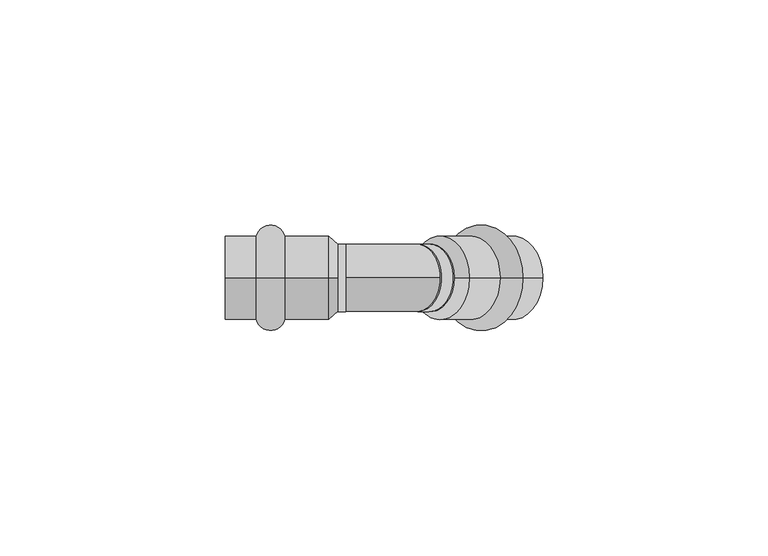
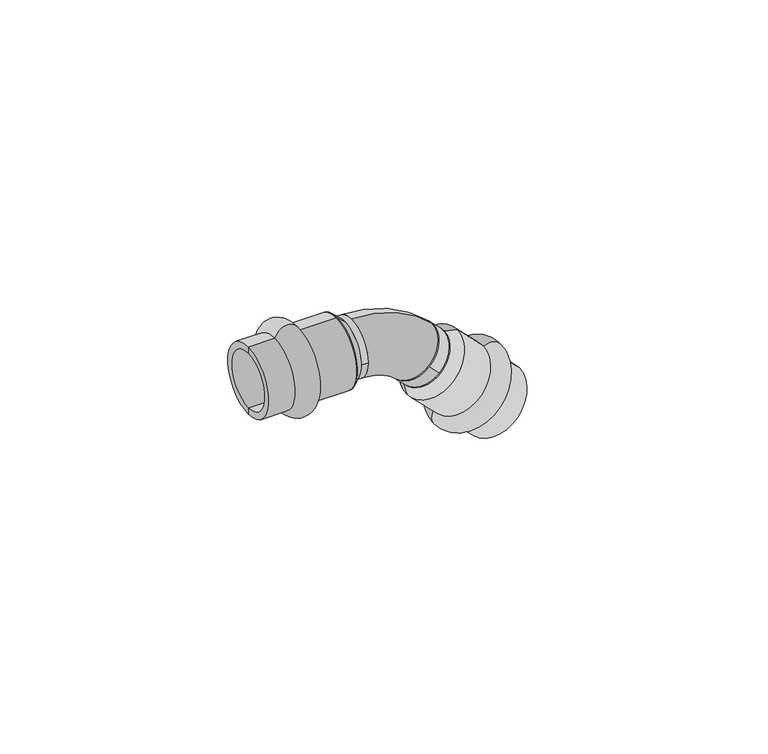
"""IFC4 building model written with IfcOpenShell, lengths in millimetres: pipe fitting geometry, VALTEC_VTi.959.I_Угольник 45° (раструб–раструб) нержавеющая сталь : Тип 1."""

from ifc_helpers import new_model, si_unit, point, frame, frame_2d, origin, origin_2d, place, context, project, spatial, polyline, circle_curve, ellipse_curve, trimmed, segment, composite_curve, outline, extrude, source, transform, mapped, element, save
from ifc_brep_helpers import plane_surface, cylinder_surface, revolved_surface, advanced_brep


def pipe_fitting_28faa182(model_context):
    return source(origin(), model_context, "Body", "SolidModel", [
        advanced_brep(
        [(-3.75, 0.0, 9.25), (-3.75, 0.0, -9.25), (-1.75, 0.0, 7.5), (-1.75, 0.0, -7.5)],
        [
            (0, 1, circle_curve(frame((-3.75, 0.0, 0.0), z_axis=(-1.0, 0.0, 0.0), x_axis=(0.0, 0.0, 1.0)), 9.25)),
            (1, 0, circle_curve(frame((-3.75, 0.0, 0.0), z_axis=(-1.0, 0.0, 0.0), x_axis=(0.0, 0.0, -1.0)), 9.25)),
            (2, 3, circle_curve(frame((-1.75, 0.0, 0.0), z_axis=(1.0, 0.0, 0.0), x_axis=(0.0, 0.0, -1.0)), 7.5)),
            (3, 2, circle_curve(frame((-1.75, 0.0, 0.0), z_axis=(1.0, 0.0, 0.0), x_axis=(0.0, 0.0, 1.0)), 7.5)),
            (3, 1),
            (0, 2),
        ],
        [
            plane_surface(frame((-3.75, 0.0, 0.0), z_axis=(-1.0, 0.0, 0.0), x_axis=(0.0, 1.0, 0.0))),
            plane_surface(frame((-1.75, 0.0, 0.0), z_axis=(1.0, 0.0, 0.0), x_axis=(0.0, 1.0, 0.0))),
            revolved_surface(polyline([(-1.7500000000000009, 0.0, -7.5000000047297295), (-3.750000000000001, 0.0, -9.25)]), (6.8214286, 0.0, 0.0), (-1.0, 0.0, 0.0)),
            revolved_surface(polyline([(-1.7500000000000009, 0.0, 7.5000000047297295), (-3.750000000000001, 0.0, 9.25)]), (6.8214286, 0.0, 0.0), (-1.0, 0.0, 0.0)),
        ],
        [
            (0, [[1, 2]]),
            (1, [[3, 4]]),
            (2, [[-4, 5, -1, 6]]),
            (3, [[-3, -6, -2, -5]]),
        ],
    ),
        advanced_brep(
        [(14.3507666, 0.0, -18.1124369), (27.432242, 0.0, -5.0309614), (13.4668831, 0.0, -14.7536797), (24.0734848, 0.0, -4.1470779)],
        [
            (0, 1, circle_curve(frame((20.8915043, 0.0, -11.5716991), z_axis=(0.7071067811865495, 0.0, -0.7071067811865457), x_axis=(-0.7071067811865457, 0.0, -0.7071067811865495)), 9.25)),
            (1, 0, circle_curve(frame((20.8915043, 0.0, -11.5716991), z_axis=(0.7071067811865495, 0.0, -0.7071067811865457), x_axis=(0.7071067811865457, 0.0, 0.7071067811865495)), 9.25)),
            (2, 3, circle_curve(frame((18.770184, 0.0, -9.4503788), z_axis=(-0.7071067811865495, 0.0, 0.7071067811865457), x_axis=(0.7071067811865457, 0.0, 0.7071067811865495)), 7.5)),
            (3, 2, circle_curve(frame((18.770184, 0.0, -9.4503788), z_axis=(-0.7071067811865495, 0.0, 0.7071067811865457), x_axis=(-0.7071067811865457, 0.0, -0.7071067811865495)), 7.5)),
            (3, 1),
            (0, 2),
        ],
        [
            plane_surface(frame((20.8915043, 0.0, -11.5716991), z_axis=(0.7071067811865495, 0.0, -0.7071067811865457), x_axis=(0.0, 1.0, 0.0))),
            plane_surface(frame((18.770184, 0.0, -9.4503788), z_axis=(-0.7071067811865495, 0.0, 0.7071067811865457), x_axis=(0.0, 1.0, 0.0))),
            revolved_surface(polyline([(24.073484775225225, 0.0, -4.147077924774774), (27.43224207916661, 0.0, -5.030961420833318)]), (9.678811, 0.0, -0.3590059), (0.7071067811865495, 0.0, -0.7071067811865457)),
            revolved_surface(polyline([(13.466883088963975, 0.0, -14.753679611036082), (14.3507666, 0.0, -18.1124369)]), (9.678811, 0.0, -0.3590059), (0.7071067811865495, 0.0, -0.7071067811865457)),
        ],
        [
            (0, [[1, 2]]),
            (1, [[3, 4]]),
            (2, [[-4, 5, -1, 6]]),
            (3, [[-3, -6, -2, -5]]),
        ],
    ),
        advanced_brep(
        [(-19.8622777, 0.0, -9.25), (-19.8622777, 0.0, 9.25), (-13.5377223, 0.0, 9.25), (-13.5377223, 0.0, -9.25), (-26.75, 0.0, -9.25), (-26.75, 0.0, 9.25), (-26.75, 0.0, -7.5), (-26.75, 0.0, 7.5), (-3.75, 0.0, -7.5), (-3.75, 0.0, 7.5), (-3.75, 0.0, -9.25), (-3.75, 0.0, 9.25)],
        [
            (0, 1, circle_curve(frame((-19.8622777, 0.0, 0.0), z_axis=(1.0, 0.0, 0.0), x_axis=(0.0, 0.0, 1.0)), 9.25)),
            (1, 2, circle_curve(frame((-16.7, 0.0, 8.5), z_axis=(0.0, 1.0, 0.0), x_axis=(1.0, 0.0, 0.0)), 3.25)),
            (2, 3, circle_curve(frame((-13.5377223, 0.0, 0.0), z_axis=(-1.0, 0.0, 0.0), x_axis=(0.0, 0.0, 1.0)), 9.25)),
            (3, 0, circle_curve(frame((-16.7, 0.0, -8.5), z_axis=(0.0, 1.0, 0.0), x_axis=(1.0, 0.0, 0.0)), 3.25)),
            (1, 0, circle_curve(frame((-19.8622777, 0.0, 0.0), z_axis=(1.0, 0.0, 0.0), x_axis=(0.0, 0.0, 1.0)), 9.25)),
            (3, 2, circle_curve(frame((-13.5377223, 0.0, 0.0), z_axis=(-1.0, 0.0, 0.0), x_axis=(0.0, 0.0, 1.0)), 9.25)),
            (4, 5, circle_curve(frame((-26.75, 0.0, 0.0), z_axis=(1.0, 0.0, 0.0), x_axis=(0.0, 0.0, 1.0)), 9.25)),
            (5, 1),
            (0, 4),
            (5, 4, circle_curve(frame((-26.75, 0.0, 0.0), z_axis=(1.0, 0.0, 0.0), x_axis=(0.0, 0.0, 1.0)), 9.25)),
            (6, 7, circle_curve(frame((-26.75, 0.0, 0.0), z_axis=(1.0, 0.0, 0.0), x_axis=(0.0, 0.0, 1.0)), 7.5)),
            (7, 5),
            (4, 6),
            (7, 6, circle_curve(frame((-26.75, 0.0, 0.0), z_axis=(1.0, 0.0, 0.0), x_axis=(0.0, 0.0, 1.0)), 7.5)),
            (8, 9, circle_curve(frame((-3.75, 0.0, 0.0), z_axis=(1.0, 0.0, 0.0), x_axis=(0.0, 0.0, 1.0)), 7.5)),
            (9, 7),
            (6, 8),
            (9, 8, circle_curve(frame((-3.75, 0.0, 0.0), z_axis=(1.0, 0.0, 0.0), x_axis=(0.0, 0.0, 1.0)), 7.5)),
            (10, 11, circle_curve(frame((-3.75, 0.0, 0.0), z_axis=(1.0, 0.0, 0.0), x_axis=(0.0, 0.0, 1.0)), 9.25)),
            (11, 9),
            (8, 10),
            (11, 10, circle_curve(frame((-3.75, 0.0, 0.0), z_axis=(1.0, 0.0, 0.0), x_axis=(0.0, 0.0, 1.0)), 9.25)),
            (2, 11),
            (10, 3),
        ],
        [
            revolved_surface(trimmed(ellipse_curve(frame((-16.7, 0.0, 8.5), z_axis=(0.0, -1.0, 0.0), x_axis=(1.0, 0.0, 0.0)), 3.25, 3.25), [point((-13.5377223, 0.0, 9.25))], [point((-19.8622777, 0.0, 9.25))], True, "CARTESIAN"), (-30.2864426, 0.0, 0.0), (-1.0, 0.0, 0.0)),
            cylinder_surface(frame((-30.2864426, 0.0, 0.0), z_axis=(-1.0, 0.0, 0.0), x_axis=(0.0, 0.0, 1.0)), 9.25),
            plane_surface(frame((-26.75, 0.0, 0.0), z_axis=(-1.0, 0.0, 0.0), x_axis=(0.0, 0.0, 1.0))),
            revolved_surface(polyline([(-26.75, 0.0, 7.5), (-3.75, 0.0, 7.5)]), (-30.2864426, 0.0, 0.0), (-1.0, 0.0, 0.0)),
            plane_surface(frame((-3.75, 0.0, 0.0), z_axis=(1.0, 0.0, 0.0), x_axis=(0.0, 0.0, 1.0))),
        ],
        [
            (0, [[1, 2, 3, 4]]),
            (0, [[5, -4, 6, -2]]),
            (1, [[7, 8, -1, 9]]),
            (1, [[10, -9, -5, -8]]),
            (2, [[11, 12, -7, 13]]),
            (2, [[14, -13, -10, -12]]),
            (3, [[15, 16, -11, 17]]),
            (3, [[18, -17, -14, -16]]),
            (4, [[19, 20, -15, 21]]),
            (4, [[22, -21, -18, -20]]),
            (1, [[-3, 23, -19, 24]]),
            (1, [[-6, -24, -22, -23]]),
        ],
    ),
        advanced_brep(
        [(38.8253428, 0.0, -16.4240622), (25.7438674, 0.0, -29.5055377), (21.2717314, 0.0, -25.0334017), (34.3532069, 0.0, -11.9519263), (43.695698, 0.0, -21.2944174), (30.6142225, 0.0, -34.3758928), (42.4582611, 0.0, -22.5318542), (31.8516594, 0.0, -33.138456), (26.1948052, 0.0, -6.2683983), (15.5882034, 0.0, -16.875), (27.432242, 0.0, -5.0309614), (14.3507666, 0.0, -18.1124369)],
        [
            (0, 1, circle_curve(frame((32.2846051, 0.0, -22.9647999), z_axis=(-0.7071067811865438, 0.0, 0.7071067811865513), x_axis=(-0.7071067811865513, 0.0, -0.7071067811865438)), 9.25)),
            (1, 2, circle_curve(frame((24.0381295, 0.0, -26.7391396), z_axis=(0.0, 1.0, 0.0), x_axis=(-0.7071067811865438, 0.0, 0.7071067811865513)), 3.25)),
            (2, 3, circle_curve(frame((27.8124691, 0.0, -18.492664), z_axis=(0.7071067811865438, 0.0, -0.7071067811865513), x_axis=(-0.7071067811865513, 0.0, -0.7071067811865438)), 9.25)),
            (3, 0, circle_curve(frame((36.0589448, 0.0, -14.7183243), z_axis=(0.0, 1.0, 0.0), x_axis=(-0.7071067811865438, 0.0, 0.7071067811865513)), 3.25)),
            (1, 0, circle_curve(frame((32.2846051, 0.0, -22.9647999), z_axis=(-0.7071067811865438, 0.0, 0.7071067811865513), x_axis=(-0.7071067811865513, 0.0, -0.7071067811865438)), 9.25)),
            (3, 2, circle_curve(frame((27.8124691, 0.0, -18.492664), z_axis=(0.7071067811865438, 0.0, -0.7071067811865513), x_axis=(-0.7071067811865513, 0.0, -0.7071067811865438)), 9.25)),
            (4, 5, circle_curve(frame((37.1549603, 0.0, -27.8351551), z_axis=(-0.7071067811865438, 0.0, 0.7071067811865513), x_axis=(-0.7071067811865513, 0.0, -0.7071067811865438)), 9.25)),
            (5, 1),
            (0, 4),
            (5, 4, circle_curve(frame((37.1549603, 0.0, -27.8351551), z_axis=(-0.7071067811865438, 0.0, 0.7071067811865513), x_axis=(-0.7071067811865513, 0.0, -0.7071067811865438)), 9.25)),
            (6, 7, circle_curve(frame((37.1549603, 0.0, -27.8351551), z_axis=(-0.7071067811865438, 0.0, 0.7071067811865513), x_axis=(-0.7071067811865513, 0.0, -0.7071067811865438)), 7.5)),
            (7, 5),
            (4, 6),
            (7, 6, circle_curve(frame((37.1549603, 0.0, -27.8351551), z_axis=(-0.7071067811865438, 0.0, 0.7071067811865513), x_axis=(-0.7071067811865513, 0.0, -0.7071067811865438)), 7.5)),
            (8, 9, circle_curve(frame((20.8915043, 0.0, -11.5716991), z_axis=(-0.7071067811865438, 0.0, 0.7071067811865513), x_axis=(-0.7071067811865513, 0.0, -0.7071067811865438)), 7.5)),
            (9, 7),
            (6, 8),
            (9, 8, circle_curve(frame((20.8915043, 0.0, -11.5716991), z_axis=(-0.7071067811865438, 0.0, 0.7071067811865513), x_axis=(-0.7071067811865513, 0.0, -0.7071067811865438)), 7.5)),
            (10, 11, circle_curve(frame((20.8915043, 0.0, -11.5716991), z_axis=(-0.7071067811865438, 0.0, 0.7071067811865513), x_axis=(-0.7071067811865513, 0.0, -0.7071067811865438)), 9.25)),
            (11, 9),
            (8, 10),
            (11, 10, circle_curve(frame((20.8915043, 0.0, -11.5716991), z_axis=(-0.7071067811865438, 0.0, 0.7071067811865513), x_axis=(-0.7071067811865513, 0.0, -0.7071067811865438)), 9.25)),
            (2, 11),
            (10, 3),
        ],
        [
            revolved_surface(trimmed(ellipse_curve(frame((24.0381295, 0.0, -26.7391396), z_axis=(0.0, -1.0, 0.0), x_axis=(-0.7071067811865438, 0.0, 0.7071067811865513)), 3.25, 3.25), [point((21.2717314, 0.0, -25.0334017))], [point((25.7438674, 0.0, -29.5055377))], True, "CARTESIAN"), (39.6556028, 0.0, -30.3357977), (0.7071067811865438, 0.0, -0.7071067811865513)),
            cylinder_surface(frame((39.6556028, 0.0, -30.3357977), z_axis=(0.7071067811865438, 0.0, -0.7071067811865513), x_axis=(-0.7071067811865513, 0.0, -0.7071067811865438)), 9.25),
            plane_surface(frame((37.1549603, 0.0, -27.8351551), z_axis=(0.7071067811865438, 0.0, -0.7071067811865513), x_axis=(-0.7071067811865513, 0.0, -0.7071067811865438))),
            revolved_surface(polyline([(31.851659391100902, 0.0, -33.13845600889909), (15.588203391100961, 0.0, -16.87500000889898)]), (39.6556028, 0.0, -30.3357977), (0.7071067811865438, 0.0, -0.7071067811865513)),
            plane_surface(frame((20.8915043, 0.0, -11.5716991), z_axis=(-0.7071067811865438, 0.0, 0.7071067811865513), x_axis=(-0.7071067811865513, 0.0, -0.7071067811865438))),
        ],
        [
            (0, [[1, 2, 3, 4]]),
            (0, [[5, -4, 6, -2]]),
            (1, [[7, 8, -1, 9]]),
            (1, [[10, -9, -5, -8]]),
            (2, [[11, 12, -7, 13]]),
            (2, [[14, -13, -10, -12]]),
            (3, [[15, 16, -11, 17]]),
            (3, [[18, -17, -14, -16]]),
            (4, [[19, 20, -15, 21]]),
            (4, [[22, -21, -18, -20]]),
            (1, [[-3, 23, -19, 24]]),
            (1, [[-6, -24, -22, -23]]),
        ],
    ),
        extrude(outline(composite_curve([segment(trimmed(circle_curve(origin_2d(), 7.5), [point((-7.5, 0.0))], [point((7.5, 0.0))], False, "CARTESIAN"), True, "CONTINUOUS"), segment(trimmed(circle_curve(origin_2d(), 7.5), [point((7.5, 0.0))], [point((-7.5, 0.0))], False, "CARTESIAN"), True, "CONTINUOUS")], self_intersect=False)), frame((-1.75, 0.0, 0.0), z_axis=(1.0, 0.0, 0.0), x_axis=(0.0, 1.0, 0.0)), (0.0, 0.0, 1.0), 1.75),
        extrude(outline(composite_curve([segment(trimmed(circle_curve(frame_2d((0.0, -7.5)), 7.5), [point((0.0, -15.0))], [point((0.0, 0.0))], False, "CARTESIAN"), True, "CONTINUOUS"), segment(trimmed(circle_curve(frame_2d((0.0, -7.5)), 7.5), [point((0.0, 0.0))], [point((0.0, -15.0))], False, "CARTESIAN"), True, "CONTINUOUS")], self_intersect=False)), frame((18.770184, -7.5, -9.4503788), z_axis=(-0.7071067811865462, 0.0, 0.7071067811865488), x_axis=(-0.7071067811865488, 0.0, -0.7071067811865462)), (0.0, 0.0, 1.0), 4.0450487),
        advanced_brep(
        [(0.0, 0.0, -7.5), (0.0, 0.0, 7.5), (10.6066017, 0.0, -11.8933983), (21.2132034, 0.0, -1.2867966)],
        [
            (0, 1, circle_curve(frame((0.0, 0.0, 0.0), z_axis=(-1.0, 0.0, 0.0), x_axis=(0.0, 0.0, 1.0)), 7.5)),
            (1, 0, circle_curve(frame((0.0, 0.0, 0.0), z_axis=(-1.0, 0.0, 0.0), x_axis=(0.0, 0.0, 1.0)), 7.5)),
            (2, 3, circle_curve(frame((15.9099026, 0.0, -6.5900974), z_axis=(0.7071067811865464, 0.0, -0.7071067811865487), x_axis=(0.7071067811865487, 0.0, 0.7071067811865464)), 7.5)),
            (3, 2, circle_curve(frame((15.9099026, 0.0, -6.5900974), z_axis=(0.7071067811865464, 0.0, -0.7071067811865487), x_axis=(0.7071067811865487, 0.0, 0.7071067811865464)), 7.5)),
            (3, 1, circle_curve(frame((0.0, 0.0, -22.5), z_axis=(0.0, -1.0, 0.0), x_axis=(0.0, 0.0, 1.0)), 30.0)),
            (0, 2, circle_curve(frame((0.0, 0.0, -22.5), z_axis=(0.0, 1.0, 0.0), x_axis=(0.0, 0.0, 1.0)), 15.0)),
        ],
        [
            plane_surface(frame((0.0, 0.0, 0.0), z_axis=(-1.0, 0.0, 0.0), x_axis=(0.0, -1.0, 0.0))),
            plane_surface(frame((15.9099026, 0.0, -6.5900974), z_axis=(0.7071067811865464, 0.0, -0.7071067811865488), x_axis=(0.0, -1.0, 0.0))),
            revolved_surface(trimmed(ellipse_curve(frame((0.0, 0.0, 0.0), z_axis=(-1.0, 0.0, 0.0), x_axis=(0.0, 0.0, 1.0)), 7.5, 7.5), [point((0.0, 0.0, -7.5))], [point((0.0, 0.0, 7.5))], True, "CARTESIAN"), (0.0, 0.0, -22.5), (0.0, 1.0, 0.0)),
            revolved_surface(trimmed(ellipse_curve(frame((0.0, 0.0, 0.0), z_axis=(-1.0, 0.0, 0.0), x_axis=(0.0, 0.0, 1.0)), 7.5, 7.5), [point((0.0, 0.0, 7.5))], [point((0.0, 0.0, -7.5))], True, "CARTESIAN"), (0.0, 0.0, -22.5), (0.0, 1.0, 0.0)),
        ],
        [
            (0, [[1, 2]]),
            (1, [[3, 4]]),
            (2, [[5, -1, 6, -4]]),
            (3, [[-6, -2, -5, -3]]),
        ],
    ),
    ])


if __name__ == "__main__":
    model = new_model("IFC4")
    model_context = context("Model", 3, world=origin())
    ifc_project = project(units=[si_unit("LENGTHUNIT", "METRE", prefix="MILLI")], contexts=[model_context])
    site = spatial("IfcSite", under=ifc_project)
    building = spatial("IfcBuilding", under=site)
    placement = place(None, origin())
    pipe_fitting_shape = pipe_fitting_28faa182(model_context)
    element("IfcPipeFitting", 1, ObjectType="VALTEC_VTi.959.I_Угольник 45° (раструб–раструб) нержавеющая сталь : Тип 1", at=placement, inside=building, context=model_context, shape_type="MappedRepresentation", body=[
        mapped(pipe_fitting_shape, transform((0.0, 0.0, 0.0), x_axis=(1.0, 0.0, 0.0), y_axis=(0.0, 1.0, 0.0), z_axis=(0.0, 0.0, 1.0))),
    ])
    save(model, "model.ifc")
